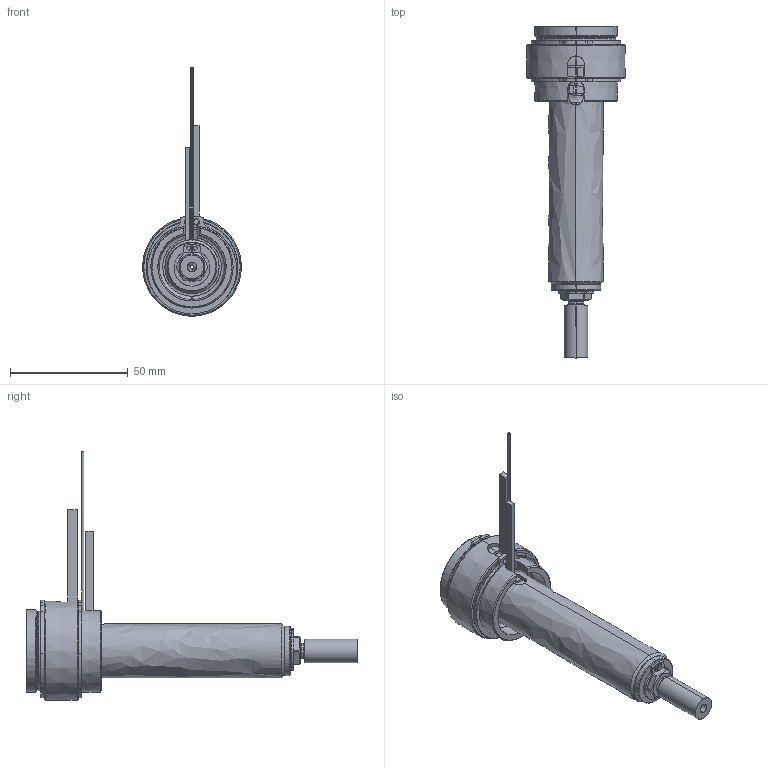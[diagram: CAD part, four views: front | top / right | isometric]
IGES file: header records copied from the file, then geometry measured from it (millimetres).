
Start section: SolidWorks IGES file using analytic representation for surfaces
Global section: file name: C:\Users\luca.EMPAD\Desktop\TEM\UGBE3502-S-A-P-3 [Ød-1.5 P-20 ØC-7.0].IGS; native system: SolidWorks 2012; preprocessor: SolidWorks 2012; author: luca; date: 120330.140439; units: millimetre
Bounding box: 42 x 141 x 105.6 mm (x, y, z)
Surface area: 29483.1 mm2 (no closed solid volume)
Topology: 0 solids, 0 shells, 187 faces, 3410 edges, 3410 vertices
Faces by surface type: revolution 120, bspline 67
